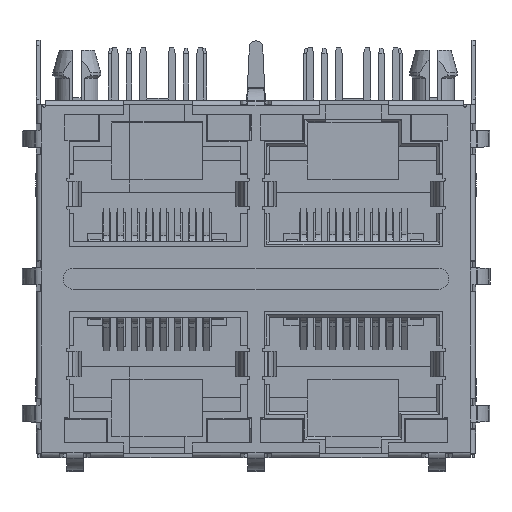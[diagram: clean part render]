
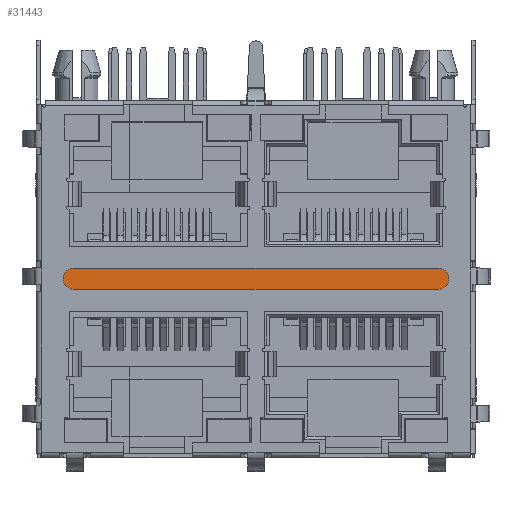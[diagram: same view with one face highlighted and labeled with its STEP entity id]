
A CAD part, top view. The second image highlights one B-rep face of the part: STEP entity #31443.
In plain terms, the highlighted planar face has unit normal (0, 0, 1) as drawn and (1, 0, 0) by its records, which use the part's own axes.
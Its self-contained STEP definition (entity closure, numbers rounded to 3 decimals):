
#1540 = CARTESIAN_POINT ( 'NONE',  ( -0.1, 0., 13. ) ) ;
#1544 = PLANE ( 'NONE',  #73707 ) ;
#1557 = DIRECTION ( 'NONE',  ( 1., 0., 0. ) ) ;
#1558 = DIRECTION ( 'NONE',  ( 0., 0., -1. ) ) ;
#2021 = FACE_OUTER_BOUND ( 'NONE', #76105, .T. ) ;
#12070 = AXIS2_PLACEMENT_3D ( 'NONE', #40340, #40342, #40344 ) ;
#12306 = AXIS2_PLACEMENT_3D ( 'NONE', #52479, #52481, #52482 ) ;
#12308 = AXIS2_PLACEMENT_3D ( 'NONE', #52490, #52492, #52493 ) ;
#30993 = CARTESIAN_POINT ( 'NONE',  ( -0.1, 0., -13.75 ) ) ;
#31249 = CARTESIAN_POINT ( 'NONE',  ( -0.1, 0.75, -13. ) ) ;
#31443 = ADVANCED_FACE ( 'NONE', ( #2021 ), #1544, .T. ) ;
#36412 = CIRCLE ( 'NONE', #12070, 0.75 ) ;
#40340 = CARTESIAN_POINT ( 'NONE',  ( -0.1, 0., -13. ) ) ;
#40342 = DIRECTION ( 'NONE',  ( 1., 0., 0. ) ) ;
#40344 = DIRECTION ( 'NONE',  ( 0., 0., -1. ) ) ;
#41077 = VERTEX_POINT ( 'NONE', #30993 ) ;
#41389 = VERTEX_POINT ( 'NONE', #31249 ) ;
#42613 = EDGE_CURVE ( 'NONE', #41077, #41389, #36412, .T. ) ;
#43694 = EDGE_CURVE ( 'NONE', #46711, #46749, #48811, .T. ) ;
#43695 = EDGE_CURVE ( 'NONE', #46717, #46711, #48815, .T. ) ;
#43696 = EDGE_CURVE ( 'NONE', #41389, #46717, #48819, .T. ) ;
#43697 = EDGE_CURVE ( 'NONE', #46749, #41077, #48821, .T. ) ;
#46711 = VERTEX_POINT ( 'NONE', #58810 ) ;
#46717 = VERTEX_POINT ( 'NONE', #58794 ) ;
#46749 = VERTEX_POINT ( 'NONE', #58826 ) ;
#48811 = LINE ( 'NONE', #52470, #48817 ) ;
#48815 = CIRCLE ( 'NONE', #12306, 0.75 ) ;
#48817 = VECTOR ( 'NONE', #52472, 1000. ) ;
#48819 = LINE ( 'NONE', #52459, #48823 ) ;
#48821 = CIRCLE ( 'NONE', #12308, 0.75 ) ;
#48823 = VECTOR ( 'NONE', #52446, 1000. ) ;
#52446 = DIRECTION ( 'NONE',  ( 0., 0., 1. ) ) ;
#52459 = CARTESIAN_POINT ( 'NONE',  ( -0.1, 0.75, 13. ) ) ;
#52470 = CARTESIAN_POINT ( 'NONE',  ( -0.1, -0.75, 13. ) ) ;
#52472 = DIRECTION ( 'NONE',  ( 0., 0., -1. ) ) ;
#52479 = CARTESIAN_POINT ( 'NONE',  ( -0.1, 0., 13. ) ) ;
#52481 = DIRECTION ( 'NONE',  ( 1., 0., 0. ) ) ;
#52482 = DIRECTION ( 'NONE',  ( 0., 0., -1. ) ) ;
#52490 = CARTESIAN_POINT ( 'NONE',  ( -0.1, 0., -13. ) ) ;
#52492 = DIRECTION ( 'NONE',  ( 1., 0., 0. ) ) ;
#52493 = DIRECTION ( 'NONE',  ( 0., 0., -1. ) ) ;
#58794 = CARTESIAN_POINT ( 'NONE',  ( -0.1, 0.75, 13. ) ) ;
#58810 = CARTESIAN_POINT ( 'NONE',  ( -0.1, -0.75, 13. ) ) ;
#58826 = CARTESIAN_POINT ( 'NONE',  ( -0.1, -0.75, -13. ) ) ;
#67135 = ORIENTED_EDGE ( 'NONE', *, *, #43697, .T. ) ;
#67136 = ORIENTED_EDGE ( 'NONE', *, *, #42613, .T. ) ;
#67137 = ORIENTED_EDGE ( 'NONE', *, *, #43696, .T. ) ;
#67138 = ORIENTED_EDGE ( 'NONE', *, *, #43695, .T. ) ;
#67139 = ORIENTED_EDGE ( 'NONE', *, *, #43694, .T. ) ;
#73707 = AXIS2_PLACEMENT_3D ( 'NONE', #1540, #1557, #1558 ) ;
#76105 = EDGE_LOOP ( 'NONE', ( #67135, #67136, #67137, #67138, #67139 ) ) ;
